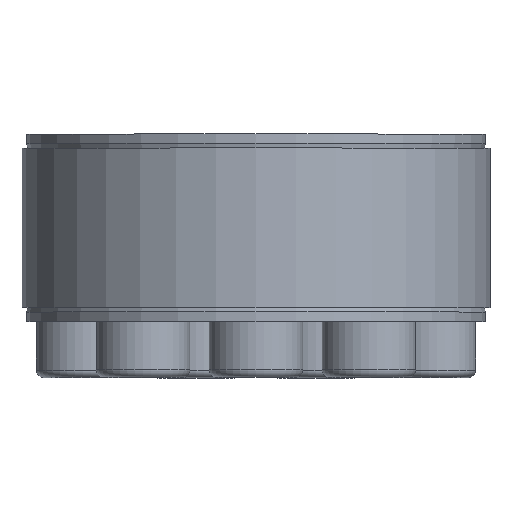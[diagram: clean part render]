
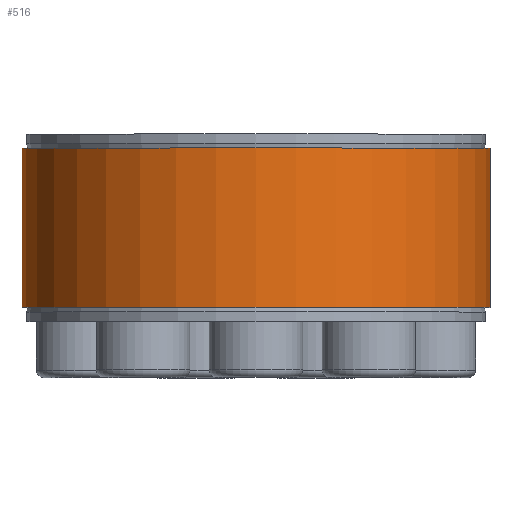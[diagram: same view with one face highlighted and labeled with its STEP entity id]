
A CAD part, top view. The second image highlights one B-rep face of the part: STEP entity #516.
In plain terms, the highlighted cylindrical face has radius 25 mm (diameter 50 mm), a partial arc.
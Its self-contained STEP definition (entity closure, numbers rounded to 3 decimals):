
#516 = ADVANCED_FACE( '', ( #961 ), #962, .T. );
#961 = FACE_OUTER_BOUND( '', #1624, .T. );
#962 = CYLINDRICAL_SURFACE( '', #1625, 25. );
#1624 = EDGE_LOOP( '', ( #2380, #2381, #2382, #2383 ) );
#1625 = AXIS2_PLACEMENT_3D( '', #2384, #2385, #2386 );
#2380 = ORIENTED_EDGE( '', *, *, #3887, .F. );
#2381 = ORIENTED_EDGE( '', *, *, #3888, .T. );
#2382 = ORIENTED_EDGE( '', *, *, #3889, .T. );
#2383 = ORIENTED_EDGE( '', *, *, #3890, .F. );
#2384 = CARTESIAN_POINT( '', ( 0., -60., 0. ) );
#2385 = DIRECTION( '', ( 0., -1., 0. ) );
#2386 = DIRECTION( '', ( 0., 0., 1. ) );
#3887 = EDGE_CURVE( '', #4349, #4350, #4351, .F. );
#3888 = EDGE_CURVE( '', #4349, #4352, #4353, .T. );
#3889 = EDGE_CURVE( '', #4352, #4354, #4355, .F. );
#3890 = EDGE_CURVE( '', #4350, #4354, #4356, .T. );
#4349 = VERTEX_POINT( '', #4971 );
#4350 = VERTEX_POINT( '', #4972 );
#4351 = LINE( '', #4973, #4974 );
#4352 = VERTEX_POINT( '', #4975 );
#4353 = CIRCLE( '', #4976, 25. );
#4354 = VERTEX_POINT( '', #4977 );
#4355 = LINE( '', #4978, #4979 );
#4356 = CIRCLE( '', #4980, 25. );
#4971 = CARTESIAN_POINT( '', ( 0.417, 8.5, -24.997 ) );
#4972 = CARTESIAN_POINT( '', ( 0.417, -8.5, -24.997 ) );
#4973 = CARTESIAN_POINT( '', ( 0.417, -60., -24.997 ) );
#4974 = VECTOR( '', #6072, 1000. );
#4975 = CARTESIAN_POINT( '', ( -0.417, 8.5, -24.997 ) );
#4976 = AXIS2_PLACEMENT_3D( '', #6073, #6074, #6075 );
#4977 = CARTESIAN_POINT( '', ( -0.417, -8.5, -24.997 ) );
#4978 = CARTESIAN_POINT( '', ( -0.417, -60., -24.997 ) );
#4979 = VECTOR( '', #6076, 1000. );
#4980 = AXIS2_PLACEMENT_3D( '', #6077, #6078, #6079 );
#6072 = DIRECTION( '', ( 0., 1., 0. ) );
#6073 = CARTESIAN_POINT( '', ( 0., 8.5, 0. ) );
#6074 = DIRECTION( '', ( 0., -1., 0. ) );
#6075 = DIRECTION( '', ( 0., 0., -1. ) );
#6076 = DIRECTION( '', ( 0., 1., 0. ) );
#6077 = CARTESIAN_POINT( '', ( 0., -8.5, 0. ) );
#6078 = DIRECTION( '', ( 0., -1., 0. ) );
#6079 = DIRECTION( '', ( 0., 0., -1. ) );
